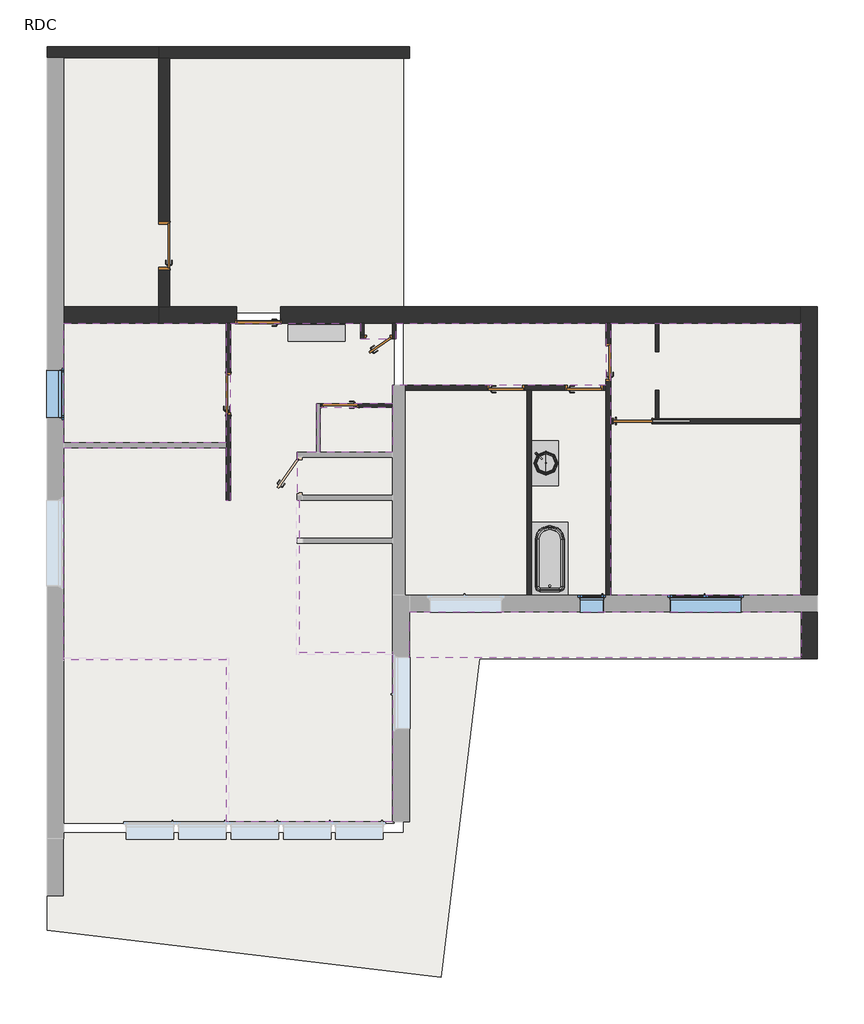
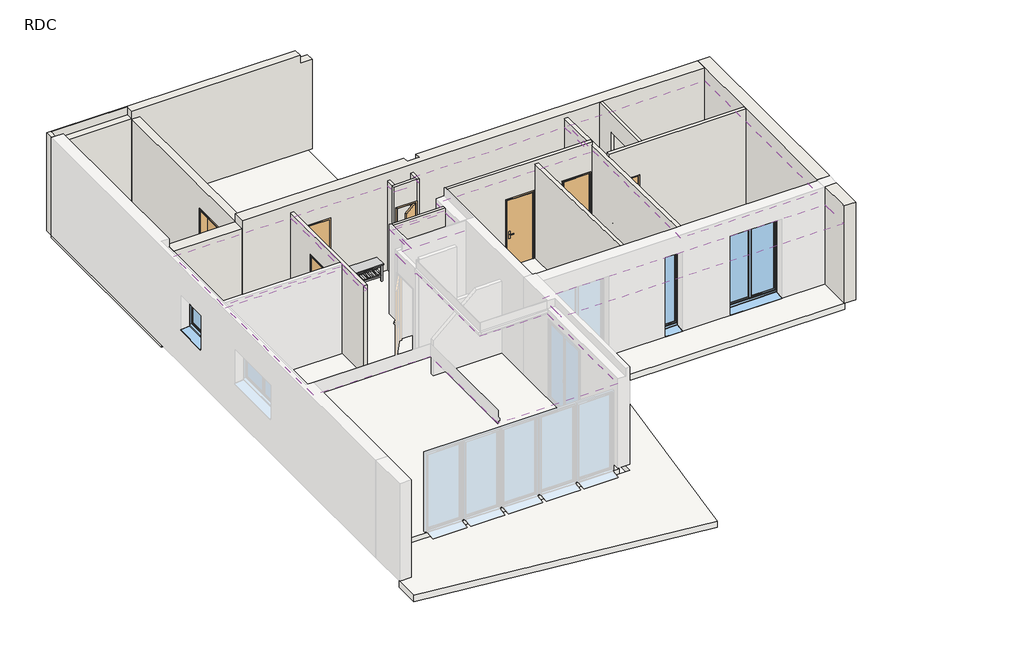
# One storey, part 2 of 2: 17 walls, 9 doors, 5 coverings, 3 slabs, 3 windows, 2 flow terminals, 2 furniture elements.
"""IFC4 building model written with IfcOpenShell, lengths in millimetres."""

from ifc_helpers import new_model, si_unit, frame, origin, origin_with_axes, place, context, project, spatial, polyline, outline, extrude, faceted_brep, transform, mapped, element, save
from components import door_41a9e6d8, door_0_80m_x_2_04m_e0b4653d, int_simple_pp_0_53m_x_2_04m_9d17cb83, int_simple_pp_0_73m_x_2_04m_359deddd, int_simple_pp_0_73m_x_2_04m_ba43af2d, int_simple_pp_0_83m_x_2_04m_727c9c46, int_simple_pp_0_93m_x_2_04m_3c3404e0, flow_terminal_414a0167, baignoire_rectangulaire_mur_baignoire_rectangulaire_mur_52e2cdf1, furniture_1200_x_350_x_530_mm_359cf0c6, furniture_900mm_0b803dc7, window_0_50m_x_2_40m_2195513b, window_1_vantail_droit_1_00m_x_1_00m_58547b41, window_1_50m_x_2_40m_e69f112c

model = new_model("IFC4")

# Units and contexts
model_context = context("Model", 3, world=origin())
ifc_project = project(units=[si_unit("LENGTHUNIT", "METRE", prefix="MILLI")], contexts=[model_context])

# Site, building, storey
site = spatial("IfcSite", under=ifc_project)
building = spatial("IfcBuilding", under=site)
storey = spatial("IfcBuildingStorey", under=building, Name="RDC", Elevation=0.0)

# Coverings
placement = place(None, origin())
element("IfcCovering", 1, ObjectType="Plafond plâtre", at=placement, inside=storey, context=model_context, shape_type="Brep", body=[
    faceted_brep([(-716.697342, -8385.0425801, 2670.0), (-716.697342, -4879.0425801, 2670.0), (-716.697342, -4831.0425801, 2670.0), (-2669.3224934, -4831.0425801, 2670.0), (-2682.3224934, -4831.0425801, 2670.0), (-2682.3224934, -1645.1038978, 2670.0), (-2719.1256089, -1645.1038978, 2670.0), (-2719.1256089, -645.1038978, 2670.0), (-2313.697342, -645.1038978, 2670.0), (-2313.697342, 371.8961022, 2670.0), (-716.697342, 371.8961022, 2670.0), (-716.697342, 757.8961022, 2670.0), (3754.302658, 757.8961022, 2670.0), (3754.302658, 2054.9574199, 2670.0), (-644.697342, 2054.9574199, 2670.0), (-644.697342, 1735.8961022, 2670.0), (-1392.697342, 1735.8961022, 2670.0), (-1392.697342, 2054.9574199, 2670.0), (-4111.697342, 2054.9574199, 2670.0), (-4111.697342, -1645.1038978, 2670.0), (-4211.697342, -1645.1038978, 2670.0), (-4211.697342, -545.0425801, 2670.0), (-7606.697342, -545.0425801, 2670.0), (-7606.697342, -4944.0425801, 2670.0), (-7606.697342, -4992.0425801, 2670.0), (-4211.697342, -4992.0425801, 2670.0), (-4198.697342, -4992.0425801, 2670.0), (-4198.697342, -8385.0425801, 2670.0), (-4150.697342, -8385.0425801, 2670.0), (-716.697342, -8385.0425801, 2600.0), (-4198.697342, -8385.0425801, 2600.0), (-4198.697342, -4992.0425801, 2600.0), (-4211.697342, -4992.0425801, 2600.0), (-7606.697342, -4992.0425801, 2600.0), (-7606.697342, -545.0425801, 2600.0), (-4211.697342, -545.0425801, 2600.0), (-4211.697342, -1645.1038978, 2600.0), (-4111.697342, -1645.1038978, 2600.0), (-4111.697342, 2054.9574199, 2600.0), (-1392.697342, 2054.9574199, 2600.0), (-1392.697342, 1735.8961022, 2600.0), (-644.697342, 1735.8961022, 2600.0), (-644.697342, 2054.9574199, 2600.0), (3754.302658, 2054.9574199, 2600.0), (3754.302658, 757.8961022, 2600.0), (-716.697342, 757.8961022, 2600.0), (-716.697342, 371.8961022, 2600.0), (-2313.697342, 371.8961022, 2600.0), (-2313.697342, -645.1038978, 2600.0), (-2719.1256089, -645.1038978, 2600.0), (-2719.1256089, -1645.1038978, 2600.0), (-2682.3224934, -1645.1038978, 2600.0), (-2682.3224934, -4831.0425801, 2600.0), (-2669.3224934, -4831.0425801, 2600.0), (-716.697342, -4831.0425801, 2600.0)], [[[0, 1, 2, 3, 4, 5, 6, 7, 8, 9, 10, 11, 12, 13, 14, 15, 16, 17, 18, 19, 20, 21, 22, 23, 24, 25, 26, 27, 28]], [[29, 30, 31, 32, 33, 34, 35, 36, 37, 38, 39, 40, 41, 42, 43, 44, 45, 46, 47, 48, 49, 50, 51, 52, 53, 54]], [[2, 1, 0, 29, 54]], [[6, 5, 51, 50]], [[7, 6, 50, 49]], [[8, 7, 49, 48]], [[9, 8, 48, 47]], [[10, 9, 47, 46]], [[11, 10, 46, 45]], [[12, 11, 45, 44]], [[13, 12, 44, 43]], [[14, 13, 43, 42]], [[15, 14, 42, 41]], [[16, 15, 41, 40]], [[17, 16, 40, 39]], [[18, 17, 39, 38]], [[19, 18, 38, 37]], [[20, 19, 37, 36]], [[21, 20, 36, 35]], [[22, 21, 35, 34]], [[24, 23, 22, 34, 33]], [[0, 28, 27, 30, 29]], [[4, 3, 2, 54, 53, 52]], [[5, 4, 52, 51]], [[26, 25, 24, 33, 32, 31]], [[27, 26, 31, 30]]]),
])
element("IfcCovering", 2, ObjectType="Plafond plâtre", at=placement, inside=storey, context=model_context, shape_type="SweptSolid", body=[
    extrude(outline(polyline([(7833.302658, 2054.9574199), (7833.302658, -3635.0425801), (3854.302658, -3635.0425801), (3854.302658, 2054.9574199), (7833.302658, 2054.9574199)])), frame((0.0, 0.0, 2600.0), z_axis=(0.0, 0.0, 1.0), x_axis=(1.0, 0.0, 0.0)), (0.0, 0.0, 1.0), 70.0),
    extrude(outline(polyline([(-456.697342, -3635.0425801), (-456.697342, 657.8961022), (2094.302658, 657.8961022), (2094.302658, -3635.0425801), (-456.697342, -3635.0425801)])), frame((0.0, 0.0, 2600.0), z_axis=(0.0, 0.0, 1.0), x_axis=(1.0, 0.0, 0.0)), (0.0, 0.0, 1.0), 70.0),
    extrude(outline(polyline([(2194.302658, -3635.0425801), (2194.302658, 657.8961022), (3754.302658, 657.8961022), (3754.302658, -3635.0425801), (2194.302658, -3635.0425801)])), frame((0.0, 0.0, 2600.0), z_axis=(0.0, 0.0, 1.0), x_axis=(1.0, 0.0, 0.0)), (0.0, 0.0, 1.0), 70.0),
])
element("IfcCovering", 3, ObjectType="Plafond plâtre", at=placement, inside=storey, context=model_context, shape_type="SweptSolid", body=[
    extrude(outline(polyline([(-4211.697342, -445.0425801), (-7606.697342, -445.0425801), (-7606.697342, 2054.9574199), (-5501.5193778, 2054.9574199), (-4211.697342, 2054.9574199), (-4211.697342, -445.0425801)])), frame((0.0, 0.0, 2600.0), z_axis=(0.0, 0.0, 1.0), x_axis=(1.0, 0.0, 0.0)), (0.0, 0.0, 1.0), 70.0),
])
element("IfcCovering", 4, ObjectType="Plafond plâtre", at=placement, inside=storey, context=model_context, shape_type="SweptSolid", body=[
    extrude(outline(polyline([(-716.697342, -645.1038978), (-2241.697342, -645.1038978), (-2241.697342, 299.8961022), (-716.697342, 299.8961022), (-716.697342, -645.1038978)])), frame((0.0, 0.0, 2600.0), z_axis=(0.0, 0.0, 1.0), x_axis=(1.0, 0.0, 0.0)), (0.0, 0.0, 1.0), 70.0),
])
element("IfcCovering", 5, ObjectType="Soffite extérieur", at=placement, inside=storey, context=model_context, shape_type="Brep", body=[
    faceted_brep([(-366.697342, -3985.0425801, 2525.3826769), (-366.697342, -4804.9508532, 2998.7569391), (-366.697342, -4867.1038978, 3034.6410162), (-366.697342, -4947.1038978, 3080.8290377), (7843.302658, -4947.1038978, 3080.8290377), (7843.302658, -4867.1038978, 3034.6410162), (7843.302658, -3985.0425801, 2525.3826769), (-366.697342, -3985.0425801, 2444.5536392), (7843.302658, -3985.0425801, 2444.5536392), (7843.302658, -4947.1038978, 3000.0), (-366.697342, -4947.1038978, 3000.0)], [[[0, 1, 2, 3, 4, 5, 6]], [[7, 8, 9, 10]], [[3, 2, 1, 0, 7, 10]], [[4, 3, 10, 9]], [[6, 5, 4, 9, 8]], [[0, 6, 8, 7]]]),
])

# Doors
door_shape = door_41a9e6d8(model_context)
element("IfcDoor", 6, ObjectType="Porte d'entrée : PP Lisse (0.90 m x 2.15 m)", at=placement, inside=storey, context=model_context, shape_type="MappedRepresentation", body=[
    mapped(door_shape, transform((-3541.697342, 2229.9574199, 0.0), x_axis=(-1.0, 0.0, 0.0), y_axis=(0.0, -1.0, 0.0), z_axis=(0.0, 0.0, 1.0))),
])
door_0_80m_x_2_04m_shape = door_0_80m_x_2_04m_e0b4653d(model_context)
element("IfcDoor", 7, ObjectType="Coulissante - Encastrée : 0.80m x 2.04m", at=placement, inside=storey, context=model_context, shape_type="MappedRepresentation", body=[
    mapped(door_0_80m_x_2_04m_shape, transform((4300.2977717, -3.0065065, 0.0), x_axis=(-1.0, 0.0, 0.0), y_axis=(0.0, -1.0, 0.0), z_axis=(0.0, 0.0, 1.0))),
])
int_simple_pp_0_53m_x_2_04m_shape = int_simple_pp_0_53m_x_2_04m_9d17cb83(model_context)
element("IfcDoor", 8, ObjectType="Int. Simple : PP (0.53m x 2.04m)", at=placement, inside=storey, context=model_context, shape_type="MappedRepresentation", body=[
    mapped(int_simple_pp_0_53m_x_2_04m_shape, transform((-983.697342, 1771.8961022, 0.0), x_axis=(1.0, 0.0, 0.0), y_axis=(0.0, 1.0, 0.0), z_axis=(0.0, 0.0, 1.0))),
])
int_simple_pp_0_73m_x_2_04m_shape = int_simple_pp_0_73m_x_2_04m_359deddd(model_context)
element("IfcDoor", 9, ObjectType="Int. Simple : PP (0.73m x 2.04m)", at=placement, inside=storey, context=model_context, shape_type="MappedRepresentation", body=[
    mapped(int_simple_pp_0_73m_x_2_04m_shape, transform((-1856.697342, 335.8961022, 0.0), x_axis=(-1.0, 0.0, 0.0), y_axis=(0.0, -1.0, 0.0), z_axis=(0.0, 0.0, 1.0))),
])
int_simple_pp_0_73m_x_2_04m_2_shape = int_simple_pp_0_73m_x_2_04m_ba43af2d(model_context)
element("IfcDoor", 10, ObjectType="Int. Simple : PP (0.73m x 2.04m)", at=placement, inside=storey, context=model_context, shape_type="MappedRepresentation", body=[
    mapped(int_simple_pp_0_73m_x_2_04m_2_shape, transform((1689.302658, 707.8961022, 0.0), x_axis=(1.0, 0.0, 0.0), y_axis=(0.0, 1.0, 0.0), z_axis=(0.0, 0.0, 1.0))),
])
element("IfcDoor", 11, ObjectType="Int. Simple : PP (0.73m x 2.04m)", at=placement, inside=storey, context=model_context, shape_type="MappedRepresentation", body=[
    mapped(int_simple_pp_0_73m_x_2_04m_2_shape, transform((3329.302658, 707.8961022, 0.0), x_axis=(1.0, 0.0, 0.0), y_axis=(0.0, 1.0, 0.0), z_axis=(0.0, 0.0, 1.0))),
])
element("IfcDoor", 12, ObjectType="Int. Simple : PP (0.73m x 2.04m)", at=placement, inside=storey, context=model_context, shape_type="MappedRepresentation", body=[
    mapped(int_simple_pp_0_73m_x_2_04m_2_shape, transform((3804.302658, 1272.8961022, 0.0), x_axis=(0.0, 1.0, 0.0), y_axis=(-1.0, 0.0, 0.0), z_axis=(0.0, 0.0, 1.0))),
])
int_simple_pp_0_83m_x_2_04m_shape = int_simple_pp_0_83m_x_2_04m_727c9c46(model_context)
element("IfcDoor", 13, ObjectType="Int. Simple : PP (0.83m x 2.04m)", at=placement, inside=storey, context=model_context, shape_type="MappedRepresentation", body=[
    mapped(int_simple_pp_0_83m_x_2_04m_shape, transform((-4161.697342, 614.9267611, 0.0), x_axis=(0.0, 1.0, 0.0), y_axis=(-1.0, 0.0, 0.0), z_axis=(0.0, 0.0, 1.0))),
])
int_simple_pp_0_93m_x_2_04m_shape = int_simple_pp_0_93m_x_2_04m_3c3404e0(model_context)
element("IfcDoor", 14, ObjectType="Int. Simple : PP (0.93m x 2.04m)", at=placement, inside=storey, context=model_context, shape_type="MappedRepresentation", body=[
    mapped(int_simple_pp_0_93m_x_2_04m_shape, transform((-5501.5193778, 3719.9574199, 0.0), x_axis=(0.0, 1.0, 0.0), y_axis=(-1.0, 0.0, 0.0), z_axis=(0.0, 0.0, 1.0))),
])

# Flow terminals
flow_terminal_shape = flow_terminal_414a0167(model_context)
element("IfcFlowTerminal", 15, ObjectType="Lavabo moderne : Lavabo moderne", at=placement, inside=storey, context=model_context, shape_type="MappedRepresentation", body=[
    mapped(flow_terminal_shape, transform((2194.302658, -893.8262703, 740.0), x_axis=(0.0, 1.0, 0.0), y_axis=(-1.0, 0.0, 0.0), z_axis=(0.0, 0.0, 1.0))),
])
baignoire_rectangulaire_mur_baignoire_rectangulaire_mur_shape = baignoire_rectangulaire_mur_baignoire_rectangulaire_mur_52e2cdf1(model_context)
element("IfcFlowTerminal", 16, ObjectType="Baignoire rectangulaire - Mur : Baignoire rectangulaire - Mur", at=placement, inside=storey, context=model_context, shape_type="MappedRepresentation", body=[
    mapped(baignoire_rectangulaire_mur_baignoire_rectangulaire_mur_shape, transform((2144.302658, -2524.4396113, 0.0), x_axis=(0.0, 1.0, 0.0), y_axis=(-1.0, 0.0, 0.0), z_axis=(0.0, 0.0, 1.0))),
])

# Furniture
furniture_1200_x_350_x_530_mm_shape = furniture_1200_x_350_x_530_mm_359cf0c6(model_context)
element("IfcFurniture", 17, ObjectType="Banc : 1200 x 350 x 530 mm", at=placement, inside=storey, context=model_context, shape_type="MappedRepresentation", body=[
    mapped(furniture_1200_x_350_x_530_mm_shape, transform((-2313.697342, 2039.796778, 0.0), x_axis=(1.0, 0.0, 0.0), y_axis=(0.0, 1.0, 0.0), z_axis=(0.0, 0.0, 1.0))),
])
furniture_900mm_shape = furniture_900mm_0b803dc7(model_context)
element("IfcFurniture", 18, ObjectType="Meuble sous lavabo - Porte simple et 2 tiroirs : 900mm", at=placement, inside=storey, context=model_context, shape_type="MappedRepresentation", body=[
    mapped(furniture_900mm_shape, transform((2194.302658, -963.9141086, 0.0), x_axis=(0.0, 1.0, 0.0), y_axis=(-1.0, 0.0, 0.0), z_axis=(0.0, 0.0, 1.0))),
])

# Slabs
element("IfcSlab", 19, ObjectType="Dalle en béton + Isolant", at=placement, inside=storey, context=model_context, shape_type="SweptSolid", body=[
    extrude(outline(polyline([(7863.302658, -3665.0425801), (-486.697342, -3665.0425801), (-486.697342, 2084.9574199), (7863.302658, 2084.9574199), (7863.302658, -3665.0425801)])), frame((0.0, 0.0, -360.0), z_axis=(0.0, 0.0, 1.0), x_axis=(1.0, 0.0, 0.0)), (0.0, 0.0, 1.0), 360.0),
    extrude(outline(polyline([(-7636.697342, -8415.0425801), (-7636.697342, 2084.9574199), (-686.697342, 2084.9574199), (-686.697342, -8415.0425801), (-7636.697342, -8415.0425801)])), frame((0.0, 0.0, -360.0), z_axis=(0.0, 0.0, 1.0), x_axis=(1.0, 0.0, 0.0)), (0.0, 0.0, 1.0), 360.0),
])
element("IfcSlab", 20, ObjectType="Dalle en béton", at=placement, inside=storey, context=model_context, shape_type="Brep", body=[
    faceted_brep([(-486.697342, 7834.9574199, -250.0), (-486.697342, 2284.9574199, -250.0), (-686.697342, 2284.9574199, -250.0), (-7636.697342, 2284.9574199, -250.0), (-7836.697342, 2284.9574199, -250.0), (-7836.697342, 7834.9574199, -250.0), (-7636.697342, 7834.9574199, -250.0), (-686.697342, 7834.9574199, -250.0), (-486.697342, 7834.9574199, 0.0), (-7836.697342, 7834.9574199, 0.0), (-7836.697342, 2284.9574199, 0.0), (-7636.697342, 2284.9574199, 0.0), (-686.697342, 2284.9574199, 0.0), (-486.697342, 2284.9574199, 0.0)], [[[0, 1, 2, 3, 4, 5, 6, 7]], [[8, 9, 10, 11, 12, 13]], [[1, 0, 8, 13]], [[4, 3, 2, 1, 13, 12, 11, 10]], [[5, 4, 10, 9]], [[0, 7, 6, 5, 9, 8]]]),
])
element("IfcSlab", 21, ObjectType="Terrasse", at=placement, inside=storey, context=model_context, shape_type="SweptSolid", body=[
    extrude(outline(polyline([(7863.302658, -3865.0425801), (7863.302658, -4967.1038978), (1099.5646631, -4967.1038978), (296.1534738, -11641.8526297), (-7957.697342, -10648.3716214), (-7957.697342, -9912.1038978), (-7636.697342, -9912.1038978), (-7636.697342, -8615.0425801), (-486.697342, -8615.0425801), (-486.697342, -3865.0425801), (7863.302658, -3865.0425801)])), frame((0.0, 0.0, -190.0), z_axis=(0.0, 0.0, 1.0), x_axis=(1.0, 0.0, 0.0)), (0.0, 0.0, 1.0), 190.0),
])

# Walls
element("IfcWall", 22, ObjectType="Ext. Bardage Bois + Isolant + Béton + Finition", at=placement, inside=storey, context=model_context, shape_type="Brep", body=[
    faceted_brep([(8183.302658, -3635.0425801, 0.0), (8183.302658, 2404.9574199, 0.0), (8183.302658, 2404.9574199, 3000.0), (8183.302658, -3635.0425801, 3000.0), (7833.302658, -3635.0425801, 0.0), (7833.302658, -3635.0425801, 2975.3587736), (7833.302658, -3635.0425801, 3000.0), (7833.302658, -40.1038978, 3000.0), (7833.302658, 59.8961022, 3000.0), (7833.302658, 2054.9574199, 3000.0), (7833.302658, 2404.9574199, 3000.0), (7833.302658, 2404.9574199, 0.0), (7833.302658, 2054.9574199, 0.0), (7833.302658, 59.8961022, 0.0), (7833.302658, -40.1038978, 0.0)], [[[0, 1, 2, 3]], [[4, 5, 6, 7, 8, 9, 10, 11, 12, 13, 14]], [[1, 0, 4, 14, 13, 12, 11]], [[3, 2, 10, 9, 8, 7, 6]], [[0, 3, 6, 5, 4]], [[2, 1, 11, 10]]]),
])
element("IfcWall", 23, ObjectType="Ext. Bardage Bois + Isolant + Béton + Finition", at=placement, inside=storey, context=model_context, shape_type="Brep", body=[
    faceted_brep([(7833.302658, 2404.9574199, 3000.0), (7833.302658, 2404.9574199, 0.0), (-3071.697342, 2404.9574199, 0.0), (-3071.697342, 2404.9574199, 2160.0), (-3991.697342, 2404.9574199, 2160.0), (-3991.697342, 2404.9574199, 0.0), (-5386.5193778, 2404.9574199, 0.0), (-5616.5193778, 2404.9574199, 0.0), (-5616.5193778, 2404.9574199, 2750.0), (-5616.5193778, 2404.9574199, 3000.0), (-716.697342, 2404.9574199, 3000.0), (-716.697342, 2404.9574199, 2750.0), (-366.697342, 2404.9574199, 2750.0), (-366.697342, 2404.9574199, 3000.0), (7833.302658, 2054.9574199, 3000.0), (4856.302658, 2054.9574199, 3000.0), (4784.302658, 2054.9574199, 3000.0), (-366.697342, 2054.9574199, 3000.0), (-5616.5193778, 2054.9574199, 3000.0), (-5616.5193778, 2054.9574199, 2750.0), (-5616.5193778, 2054.9574199, 0.0), (-4211.697342, 2054.9574199, 0.0), (-4111.697342, 2054.9574199, 0.0), (-4021.697342, 2054.9574199, 0.0), (-4021.697342, 2054.9574199, 2190.0), (-3041.697342, 2054.9574199, 2190.0), (-3041.697342, 2054.9574199, 0.0), (-1392.697342, 2054.9574199, 0.0), (-1320.697342, 2054.9574199, 0.0), (-716.697342, 2054.9574199, 0.0), (-644.697342, 2054.9574199, 0.0), (3754.302658, 2054.9574199, 0.0), (3854.302658, 2054.9574199, 0.0), (4784.302658, 2054.9574199, 0.0), (4856.302658, 2054.9574199, 0.0), (7833.302658, 2054.9574199, 0.0), (-3041.697342, 2111.9574199, 0.0), (-3056.697342, 2111.9574199, 0.0), (-3056.697342, 2154.9574199, 0.0), (-3071.697342, 2154.9574199, 0.0), (-3991.697342, 2154.9574199, 0.0), (-4006.697342, 2154.9574199, 0.0), (-4006.697342, 2111.9574199, 0.0), (-4021.697342, 2111.9574199, 0.0), (-366.697342, 2229.9574199, 3000.0), (-716.697342, 2229.9574199, 3000.0), (-366.697342, 2229.9574199, 2750.0), (-716.697342, 2229.9574199, 2750.0), (-716.697342, 2284.9574199, 2750.0), (-486.697342, 2229.9574199, 2750.0), (-3071.697342, 2154.9574199, 2160.0), (-3991.697342, 2154.9574199, 2160.0), (-4006.697342, 2111.9574199, 2175.0), (-3056.697342, 2111.9574199, 2175.0), (-3041.697342, 2111.9574199, 2190.0), (-4021.697342, 2111.9574199, 2190.0), (-3056.697342, 2154.9574199, 2175.0), (-4006.697342, 2154.9574199, 2175.0)], [[[0, 1, 2, 3, 4, 5, 6, 7, 8, 9, 10, 11, 12, 13]], [[14, 15, 16, 17, 18, 19, 20, 21, 22, 23, 24, 25, 26, 27, 28, 29, 30, 31, 32, 33, 34, 35]], [[1, 35, 34, 33, 32, 31, 30, 29, 28, 27, 26, 36, 37, 38, 39, 2]], [[20, 7, 6, 5, 40, 41, 42, 43, 23, 22, 21]], [[18, 17, 16, 15, 14, 0, 13, 44, 45, 10, 9]], [[1, 0, 14, 35]], [[9, 8, 7, 20, 19, 18]], [[12, 46, 44, 13]], [[47, 48, 11, 10, 45]], [[47, 49, 46, 12, 11, 48]], [[50, 51, 4, 3]], [[51, 40, 5, 4]], [[39, 50, 3, 2]], [[42, 52, 53, 37, 36, 54, 55, 43]], [[54, 36, 26, 25]], [[55, 54, 25, 24]], [[43, 55, 24, 23]], [[37, 53, 56, 38]], [[51, 50, 39, 38, 56, 57, 41, 40]], [[53, 52, 57, 56]], [[52, 42, 41, 57]], [[46, 49, 47, 45, 44]]]),
])
element("IfcWall", 24, ObjectType="Int. Plâtre 100 mm", at=placement, inside=storey, context=model_context, shape_type="Brep", body=[
    faceted_brep([(-4111.697342, -1645.1038978, 2750.0), (-4111.697342, -1645.1038978, 0.0), (-4111.697342, 129.9267611, 0.0), (-4111.697342, 129.9267611, 2075.0), (-4111.697342, 1029.9267611, 2075.0), (-4111.697342, 1029.9267611, 0.0), (-4111.697342, 2054.9574199, 0.0), (-4111.697342, 2054.9574199, 2750.0), (-4211.697342, -1645.1038978, 0.0), (-4211.697342, -1645.1038978, 2750.0), (-4211.697342, -545.0425801, 2750.0), (-4211.697342, -445.0425801, 2750.0), (-4211.697342, 2054.9574199, 2750.0), (-4211.697342, 2054.9574199, 0.0), (-4211.697342, 1029.9267611, 0.0), (-4211.697342, 1029.9267611, 2075.0), (-4211.697342, 129.9267611, 2075.0), (-4211.697342, 129.9267611, 0.0), (-4211.697342, -445.0425801, 0.0), (-4211.697342, -545.0425801, 0.0)], [[[0, 1, 2, 3, 4, 5, 6, 7]], [[8, 9, 10, 11, 12, 13, 14, 15, 16, 17, 18, 19]], [[1, 8, 19, 18, 17, 2]], [[13, 6, 5, 14]], [[1, 0, 9, 8]], [[7, 6, 13, 12]], [[0, 7, 12, 11, 10, 9]], [[4, 15, 14, 5]], [[15, 4, 3, 16]], [[16, 3, 2, 17]]]),
])
element("IfcWall", 25, ObjectType="Int. Plâtre 100 mm", at=placement, inside=storey, context=model_context, shape_type="Brep", body=[
    faceted_brep([(3754.302658, 657.8961022, 3000.0), (-456.697342, 657.8961022, 3000.0), (-456.697342, 657.8961022, 0.0), (1254.302658, 657.8961022, 0.0), (1254.302658, 657.8961022, 2075.0), (2054.302658, 657.8961022, 2075.0), (2054.302658, 657.8961022, 0.0), (2094.302658, 657.8961022, 0.0), (2194.302658, 657.8961022, 0.0), (2894.302658, 657.8961022, 0.0), (2894.302658, 657.8961022, 2075.0), (3694.302658, 657.8961022, 2075.0), (3694.302658, 657.8961022, 0.0), (3754.302658, 657.8961022, 0.0), (-456.697342, 757.8961022, 3000.0), (3754.302658, 757.8961022, 3000.0), (3754.302658, 757.8961022, 0.0), (3694.302658, 757.8961022, 0.0), (3694.302658, 757.8961022, 2075.0), (2894.302658, 757.8961022, 2075.0), (2894.302658, 757.8961022, 0.0), (2054.302658, 757.8961022, 0.0), (2054.302658, 757.8961022, 2075.0), (1254.302658, 757.8961022, 2075.0), (1254.302658, 757.8961022, 0.0), (-456.697342, 757.8961022, 0.0)], [[[0, 1, 2, 3, 4, 5, 6, 7, 8, 9, 10, 11, 12, 13]], [[14, 15, 16, 17, 18, 19, 20, 21, 22, 23, 24, 25]], [[16, 13, 12, 17]], [[2, 25, 24, 3]], [[6, 21, 20, 9, 8, 7]], [[1, 0, 15, 14]], [[0, 13, 16, 15]], [[2, 1, 14, 25]], [[5, 22, 21, 6]], [[22, 5, 4, 23]], [[23, 4, 3, 24]], [[11, 18, 17, 12]], [[18, 11, 10, 19]], [[19, 10, 9, 20]]]),
])
element("IfcWall", 26, ObjectType="Int. Plâtre 100 mm", at=placement, inside=storey, context=model_context, shape_type="Brep", body=[
    faceted_brep([(3754.302658, -3635.0425801, 0.0), (3754.302658, -3635.0425801, 35.0), (3754.302658, -3635.0425801, 2485.0), (3754.302658, -3635.0425801, 2600.0), (3754.302658, -3635.0425801, 2670.0), (3754.302658, -3635.0425801, 2975.3587736), (3754.302658, 2054.9574199, 2861.5587736), (3754.302658, 2054.9574199, 0.0), (3754.302658, 1637.8961022, 0.0), (3754.302658, 1637.8961022, 2075.0), (3754.302658, 837.8961022, 2075.0), (3754.302658, 837.8961022, 0.0), (3754.302658, 757.8961022, 0.0), (3754.302658, 657.8961022, 0.0), (3854.302658, -3635.0425801, 2975.3587736), (3854.302658, -3635.0425801, 2670.0), (3854.302658, -3635.0425801, 2600.0), (3854.302658, -3635.0425801, 0.0), (3854.302658, -40.1038978, 0.0), (3854.302658, 59.8961022, 0.0), (3854.302658, 837.8961022, 0.0), (3854.302658, 837.8961022, 2075.0), (3854.302658, 1637.8961022, 2075.0), (3854.302658, 1637.8961022, 0.0), (3854.302658, 2054.9574199, 0.0), (3854.302658, 2054.9574199, 2600.0), (3854.302658, 2054.9574199, 2670.0), (3854.302658, 2054.9574199, 2861.5587736)], [[[0, 1, 2, 3, 4, 5, 6, 7, 8, 9, 10, 11, 12, 13]], [[14, 15, 16, 17, 18, 19, 20, 21, 22, 23, 24, 25, 26, 27]], [[7, 24, 23, 8]], [[17, 0, 13, 12, 11, 20, 19, 18]], [[5, 4, 3, 2, 1, 0, 17, 16, 15, 14]], [[7, 6, 27, 26, 25, 24]], [[22, 9, 8, 23]], [[9, 22, 21, 10]], [[10, 21, 20, 11]], [[6, 5, 14, 27]]]),
])
element("IfcWall", 27, ObjectType="Int. Plâtre 100 mm", at=placement, inside=storey, context=model_context, shape_type="Brep", body=[
    faceted_brep([(3854.302658, 59.8961022, 3000.0), (4784.302658, 59.8961022, 3000.0), (4856.302658, 59.8961022, 3000.0), (7833.302658, 59.8961022, 3000.0), (7833.302658, 59.8961022, 0.0), (4856.302658, 59.8961022, 0.0), (4784.302658, 59.8961022, 0.0), (4724.302658, 59.8961022, 0.0), (4724.302658, 59.8961022, 2055.0), (3894.302658, 59.8961022, 2055.0), (3894.302658, 59.8961022, 0.0), (3854.302658, 59.8961022, 0.0), (7833.302658, -40.1038978, 3000.0), (3854.302658, -40.1038978, 3000.0), (3854.302658, -40.1038978, 0.0), (3894.302658, -40.1038978, 0.0), (3894.302658, -40.1038978, 2055.0), (4724.302658, -40.1038978, 2055.0), (4724.302658, -40.1038978, 0.0), (7833.302658, -40.1038978, 0.0), (4724.302658, -15.1038978, 0.0), (5524.302658, -15.1038978, 0.0), (5524.302658, 34.8961022, 0.0), (4724.302658, 34.8961022, 0.0), (4724.302658, 34.8961022, 2055.0), (5524.302658, 34.8961022, 2055.0), (5524.302658, -15.1038978, 2055.0), (4724.302658, -15.1038978, 2055.0)], [[[0, 1, 2, 3, 4, 5, 6, 7, 8, 9, 10, 11]], [[12, 13, 14, 15, 16, 17, 18, 19]], [[4, 19, 18, 20, 21, 22, 23, 7, 6, 5]], [[14, 11, 10, 15]], [[3, 2, 1, 0, 13, 12]], [[4, 3, 12, 19]], [[0, 11, 14, 13]], [[24, 25, 26, 27, 17, 16, 9, 8]], [[9, 16, 15, 10]], [[23, 24, 8, 7]], [[25, 24, 23, 22]], [[26, 25, 22, 21]], [[27, 26, 21, 20]], [[27, 20, 18, 17]]]),
])
element("IfcWall", 28, ObjectType="Int. Plâtre 100 mm", at=placement, inside=storey, context=model_context, shape_type="Brep", body=[
    faceted_brep([(2094.302658, 657.8961022, 0.0), (2094.302658, -3635.0425801, 0.0), (2094.302658, -3635.0425801, 2600.0), (2094.302658, -3635.0425801, 2670.0), (2094.302658, -3635.0425801, 2975.3587736), (2094.302658, 657.8961022, 2889.5), (2094.302658, 657.8961022, 2670.0), (2094.302658, 657.8961022, 2600.0), (2194.302658, 657.8961022, 0.0), (2194.302658, 657.8961022, 2600.0), (2194.302658, 657.8961022, 2670.0), (2194.302658, 657.8961022, 2889.5), (2194.302658, -3635.0425801, 2975.3587736), (2194.302658, -3635.0425801, 2670.0), (2194.302658, -3635.0425801, 2600.0), (2194.302658, -3635.0425801, 0.0)], [[[0, 1, 2, 3, 4, 5, 6, 7]], [[8, 9, 10, 11, 12, 13, 14, 15]], [[1, 0, 8, 15]], [[4, 3, 2, 1, 15, 14, 13, 12]], [[0, 7, 6, 5, 11, 10, 9, 8]], [[5, 4, 12, 11]]]),
])
element("IfcWall", 29, ObjectType="Int. Plâtre 70 mm", at=placement, inside=storey, context=model_context, shape_type="SweptSolid", body=[
    extrude(outline(polyline([(2750.0, -2241.697342), (0.0, -2241.697342), (0.0, -2221.697342), (2075.0, -2221.697342), (2075.0, -1421.697342), (0.0, -1421.697342), (0.0, -716.697342), (2750.0, -716.697342), (2750.0, -2241.697342)])), frame((0.0, 299.8961022, 0.0), z_axis=(0.0, 1.0, 0.0), x_axis=(0.0, 0.0, 1.0)), (0.0, 0.0, 1.0), 72.0),
])
element("IfcWall", 30, ObjectType="Int. Plâtre 70 mm", at=placement, inside=storey, context=model_context, shape_type="SweptSolid", body=[
    extrude(outline(polyline([(59.8961022, 0.0), (59.8961022, 3000.0), (2054.9574199, 3000.0), (2054.9574199, 0.0), (1463.4416882, 0.0), (1463.4416882, 2438.4), (659.8961022, 2438.4), (659.8961022, 0.0), (59.8961022, 0.0)])), frame((4784.302658, 0.0, 0.0), z_axis=(1.0, 0.0, 0.0), x_axis=(0.0, 1.0, 0.0)), (0.0, 0.0, 1.0), 72.0),
])
element("IfcWall", 31, ObjectType="Int. Plâtre 70 mm", at=placement, inside=storey, context=model_context, shape_type="Brep", body=[
    faceted_brep([(-716.697342, 2054.9574199, 0.0), (-716.697342, 1807.8961022, 0.0), (-716.697342, 1735.8961022, 0.0), (-716.697342, 1735.8961022, 2750.0), (-716.697342, 1807.8961022, 2750.0), (-716.697342, 2054.9574199, 2750.0), (-644.697342, 2054.9574199, 0.0), (-644.697342, 2054.9574199, 2750.0), (-644.697342, 1735.8961022, 2750.0), (-644.697342, 1735.8961022, 0.0)], [[[0, 1, 2, 3, 4, 5]], [[6, 7, 8, 9]], [[2, 1, 0, 6, 9]], [[0, 5, 7, 6]], [[3, 2, 9, 8]], [[5, 4, 3, 8, 7]]]),
])
element("IfcWall", 32, ObjectType="Int. Plâtre 70 mm", at=placement, inside=storey, context=model_context, shape_type="Brep", body=[
    faceted_brep([(-716.697342, 1807.8961022, 2750.0), (-716.697342, 1807.8961022, 0.0), (-718.697342, 1807.8961022, 0.0), (-718.697342, 1807.8961022, 2075.0), (-1318.697342, 1807.8961022, 2075.0), (-1318.697342, 1807.8961022, 0.0), (-1320.697342, 1807.8961022, 0.0), (-1392.697342, 1807.8961022, 0.0), (-1392.697342, 1807.8961022, 2750.0), (-1320.697342, 1807.8961022, 2750.0), (-716.697342, 1735.8961022, 0.0), (-716.697342, 1735.8961022, 2750.0), (-1392.697342, 1735.8961022, 2750.0), (-1392.697342, 1735.8961022, 0.0), (-1318.697342, 1735.8961022, 0.0), (-1318.697342, 1735.8961022, 2075.0), (-718.697342, 1735.8961022, 2075.0), (-718.697342, 1735.8961022, 0.0)], [[[0, 1, 2, 3, 4, 5, 6, 7, 8, 9]], [[10, 11, 12, 13, 14, 15, 16, 17]], [[1, 10, 17, 2]], [[13, 7, 6, 5, 14]], [[1, 0, 11, 10]], [[8, 7, 13, 12]], [[0, 9, 8, 12, 11]], [[16, 3, 2, 17]], [[3, 16, 15, 4]], [[4, 15, 14, 5]]]),
])
element("IfcWall", 33, ObjectType="Int. Plâtre 70 mm", at=placement, inside=storey, context=model_context, shape_type="SweptSolid", body=[
    extrude(outline(polyline([(-1320.697342, 2054.9574199), (-1320.697342, 1807.8961022), (-1392.697342, 1807.8961022), (-1392.697342, 2054.9574199), (-1320.697342, 2054.9574199)])), origin_with_axes(), (0.0, 0.0, 1.0), 2750.0),
])
element("IfcWall", 34, ObjectType="Ext. Bardage Métal + Béton + Finition", at=placement, inside=storey, context=model_context, shape_type="SweptSolid", body=[
    extrude(outline(polyline([(7614.9574199, 0.0), (4184.9574199, 0.0), (4184.9574199, 2075.0), (3184.9574199, 2075.0), (3184.9574199, 0.0), (2404.9574199, 0.0), (2404.9574199, 2750.0), (7614.9574199, 2750.0), (7614.9574199, 0.0)])), frame((-5616.5193778, 0.0, 0.0), z_axis=(1.0, 0.0, 0.0), x_axis=(0.0, 1.0, 0.0)), (0.0, 0.0, 1.0), 230.0),
])
element("IfcWall", 35, ObjectType="Ext. Bardage Bois +  Béton + Bardage Métal", at=placement, inside=storey, context=model_context, shape_type="Brep", body=[
    faceted_brep([(-5616.5193778, 7614.9574199, 0.0), (-5386.5193778, 7614.9574199, 0.0), (-366.697342, 7614.9574199, 0.0), (-366.697342, 7614.9574199, 2750.0), (-716.697342, 7614.9574199, 2750.0), (-716.697342, 7614.9574199, 3000.0), (-5616.5193778, 7614.9574199, 3000.0), (-5616.5193778, 7614.9574199, 2750.0), (-366.697342, 7854.9574199, 0.0), (-5616.5193778, 7854.9574199, 0.0), (-5616.5193778, 7854.9574199, 3000.0), (-716.697342, 7854.9574199, 3000.0), (-716.697342, 7854.9574199, 2750.0), (-366.697342, 7854.9574199, 2750.0), (-5616.5193778, 7624.9574199, 0.0), (-5616.5193778, 7834.9574199, 3000.0), (-716.697342, 7624.9574199, 3000.0)], [[[0, 1, 2, 3, 4, 5, 6, 7]], [[8, 9, 10, 11, 12, 13]], [[2, 1, 0, 14, 9, 8]], [[2, 8, 13, 3]], [[10, 15, 6, 5, 16, 11]], [[0, 7, 6, 15, 10, 9, 14]], [[4, 12, 11, 16, 5]], [[12, 4, 3, 13]]]),
])
element("IfcWall", 36, ObjectType="Ext. Bardage Bois + Béton + Finition", at=placement, inside=storey, context=model_context, shape_type="Brep", body=[
    faceted_brep([(-7956.697342, 7624.9574199, 0.0), (-7606.697342, 7624.9574199, 0.0), (-5616.5193778, 7624.9574199, 0.0), (-5616.5193778, 7624.9574199, 2750.0), (-7836.697342, 7624.9574199, 2750.0), (-7836.697342, 7624.9574199, 3000.0), (-7956.697342, 7624.9574199, 3000.0), (-5616.5193778, 7854.9574199, 0.0), (-7956.697342, 7854.9574199, 0.0), (-7956.697342, 7854.9574199, 3000.0), (-7606.697342, 7854.9574199, 3000.0), (-5616.5193778, 7854.9574199, 3000.0), (-7836.697342, 7834.9574199, 3000.0), (-5616.5193778, 7834.9574199, 3000.0), (-5616.5193778, 7834.9574199, 2750.0), (-7836.697342, 7834.9574199, 2750.0)], [[[0, 1, 2, 3, 4, 5, 6]], [[7, 8, 9, 10, 11]], [[2, 1, 0, 8, 7]], [[11, 10, 9, 6, 5, 12, 13]], [[0, 6, 9, 8]], [[2, 7, 11, 13, 14, 3]], [[14, 15, 4, 3]], [[15, 12, 5, 4]], [[12, 15, 14, 13]]]),
])
element("IfcWall", 37, ObjectType="Ext. Bardage Bois + Isolant + Béton + Bardage Métal", at=placement, inside=storey, context=model_context, shape_type="Brep", body=[
    faceted_brep([(7843.302658, -3985.0425801, 0.0), (7843.302658, -4967.1038978, 0.0), (7843.302658, -4967.1038978, 3000.0), (7843.302658, -4947.1038978, 3000.0), (7843.302658, -4867.1038978, 3000.0), (7843.302658, -3985.0425801, 3000.0), (8183.302658, -3985.0425801, 0.0), (8183.302658, -3985.0425801, 3000.0), (8183.302658, -4867.1038978, 3000.0), (8183.302658, -4967.1038978, 3000.0), (8183.302658, -4967.1038978, 0.0)], [[[0, 1, 2, 3, 4, 5]], [[6, 7, 8, 9, 10]], [[1, 0, 6, 10]], [[2, 1, 10, 9]], [[5, 4, 3, 2, 9, 8, 7]], [[0, 5, 7, 6]]]),
])
element("IfcWall", 38, ObjectType="Int. Finition + Isolant + Béton + Finition", at=placement, inside=storey, context=model_context, shape_type="Brep", body=[
    faceted_brep([(-5616.5193778, 2404.9574199, 0.0), (-7606.697342, 2404.9574199, 0.0), (-7606.697342, 2404.9574199, 2750.0), (-5616.5193778, 2404.9574199, 2750.0), (-7606.697342, 2054.9574199, 0.0), (-5616.5193778, 2054.9574199, 0.0), (-5616.5193778, 2054.9574199, 2750.0), (-7606.697342, 2054.9574199, 2750.0), (-7606.697342, 2284.9574199, 2750.0)], [[[0, 1, 2, 3]], [[4, 5, 6, 7]], [[1, 0, 5, 4]], [[1, 4, 7, 8, 2]], [[5, 0, 3, 6]], [[7, 6, 3, 2, 8]]]),
])

# Windows
window_0_50m_x_2_40m_shape = window_0_50m_x_2_40m_2195513b(model_context)
element("IfcWindow", 39, ObjectType="PF 1 Vantail - Droite : 0.50m x 2.40m", at=placement, inside=storey, context=model_context, shape_type="MappedRepresentation", body=[
    mapped(window_0_50m_x_2_40m_shape, transform((3454.302658, -3810.0425801, 0.0), x_axis=(-1.0, 0.0, 0.0), y_axis=(0.0, -1.0, 0.0), z_axis=(0.0, 0.0, 1.0))),
])
window_1_vantail_droit_1_00m_x_1_00m_shape = window_1_vantail_droit_1_00m_x_1_00m_58547b41(model_context)
element("IfcWindow", 40, ObjectType="1 Vantail - Droit : 1.00m x 1.00m", at=placement, inside=storey, context=model_context, shape_type="MappedRepresentation", body=[
    mapped(window_1_vantail_droit_1_00m_x_1_00m_shape, transform((-7781.697342, 579.9267611, 300.0), x_axis=(0.0, 1.0, 0.0), y_axis=(-1.0, 0.0, 0.0), z_axis=(0.0, 0.0, 1.0))),
])
window_1_50m_x_2_40m_shape = window_1_50m_x_2_40m_e69f112c(model_context)
element("IfcWindow", 41, ObjectType="PF 2 Vantaux - Droits : 1.50m x 2.40m", at=placement, inside=storey, context=model_context, shape_type="MappedRepresentation", body=[
    mapped(window_1_50m_x_2_40m_shape, transform((5843.802658, -3810.0425801, 0.0), x_axis=(-1.0, 0.0, 0.0), y_axis=(0.0, -1.0, 0.0), z_axis=(0.0, 0.0, 1.0))),
])

save(model, "model.ifc")
